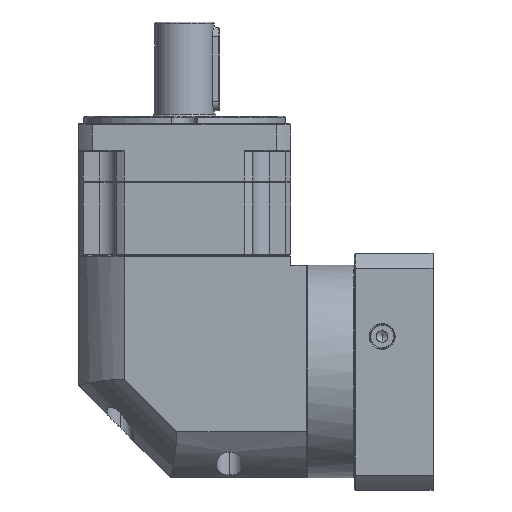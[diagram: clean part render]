
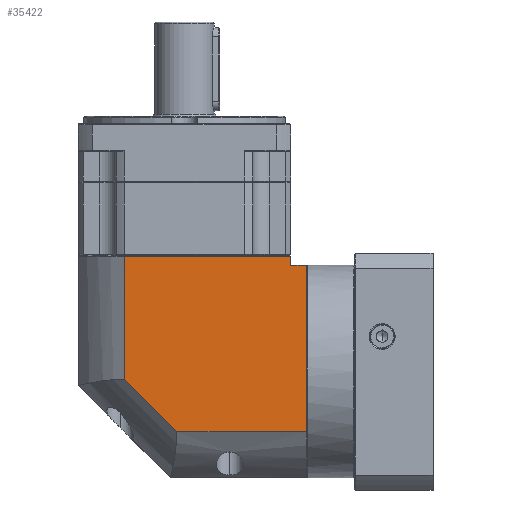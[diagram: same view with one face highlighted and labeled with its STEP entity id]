
A CAD part, left-side view. The second image highlights one B-rep face of the part: STEP entity #35422.
In plain terms, the highlighted planar face has unit normal (-1, 0, 0).
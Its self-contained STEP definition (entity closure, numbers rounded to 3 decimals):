
#1905 = CARTESIAN_POINT ( 'NONE',  ( -270.575, 3.629, 36.413 ) ) ;
#2938 = DIRECTION ( 'NONE',  ( 0., 0., 1. ) ) ;
#3126 = EDGE_CURVE ( 'NONE', #145084, #114725, #108613, .T. ) ;
#4934 = LINE ( 'NONE', #116780, #76496 ) ;
#5906 = EDGE_CURVE ( 'NONE', #21046, #157421, #112117, .T. ) ;
#15353 = DIRECTION ( 'NONE',  ( 0., 1., 0. ) ) ;
#17894 = EDGE_CURVE ( 'NONE', #28507, #57844, #24557, .T. ) ;
#21046 = VERTEX_POINT ( 'NONE', #115982 ) ;
#24557 = LINE ( 'NONE', #135146, #60438 ) ;
#24965 = AXIS2_PLACEMENT_3D ( 'NONE', #1905, #96024, #15353 ) ;
#28507 = VERTEX_POINT ( 'NONE', #138218 ) ;
#30170 = LINE ( 'NONE', #82950, #168899 ) ;
#33591 = CARTESIAN_POINT ( 'NONE',  ( -270.575, -21.471, 29.913 ) ) ;
#35422 = ADVANCED_FACE ( 'NONE', ( #63448 ), #95445, .F. ) ;
#36348 = VECTOR ( 'NONE', #154142, 1000. ) ;
#37057 = VECTOR ( 'NONE', #90538, 1000. ) ;
#41224 = DIRECTION ( 'NONE',  ( 0., 0.707, 0.707 ) ) ;
#43173 = LINE ( 'NONE', #128647, #110430 ) ;
#44926 = VERTEX_POINT ( 'NONE', #57626 ) ;
#46463 = ORIENTED_EDGE ( 'NONE', *, *, #17894, .F. ) ;
#48564 = CARTESIAN_POINT ( 'NONE',  ( -270.575, -111.371, -90.087 ) ) ;
#50927 = ORIENTED_EDGE ( 'NONE', *, *, #158049, .F. ) ;
#57626 = CARTESIAN_POINT ( 'NONE',  ( -270.575, -119.771, -64.986 ) ) ;
#57844 = VERTEX_POINT ( 'NONE', #127356 ) ;
#60249 = CARTESIAN_POINT ( 'NONE',  ( -270.575, -111.371, 24.913 ) ) ;
#60438 = VECTOR ( 'NONE', #41224, 1000. ) ;
#60784 = VECTOR ( 'NONE', #114986, 1000. ) ;
#63448 = FACE_OUTER_BOUND ( 'NONE', #153705, .T. ) ;
#63626 = ORIENTED_EDGE ( 'NONE', *, *, #150271, .F. ) ;
#76496 = VECTOR ( 'NONE', #129698, 1000. ) ;
#77495 = CARTESIAN_POINT ( 'NONE',  ( -270.575, -111.371, 29.913 ) ) ;
#79978 = ORIENTED_EDGE ( 'NONE', *, *, #5906, .T. ) ;
#82950 = CARTESIAN_POINT ( 'NONE',  ( -270.575, -21.471, 36.413 ) ) ;
#85838 = ORIENTED_EDGE ( 'NONE', *, *, #116595, .T. ) ;
#90538 = DIRECTION ( 'NONE',  ( 0., -1., 0. ) ) ;
#95445 = PLANE ( 'NONE',  #24965 ) ;
#96024 = DIRECTION ( 'NONE',  ( 1., 0., 0. ) ) ;
#108613 = LINE ( 'NONE', #170889, #37057 ) ;
#110430 = VECTOR ( 'NONE', #142113, 1000. ) ;
#112117 = LINE ( 'NONE', #60249, #36348 ) ;
#114725 = VERTEX_POINT ( 'NONE', #77495 ) ;
#114986 = DIRECTION ( 'NONE',  ( 0., 0., 1. ) ) ;
#115982 = CARTESIAN_POINT ( 'NONE',  ( -270.575, -119.771, 24.913 ) ) ;
#116595 = EDGE_CURVE ( 'NONE', #157421, #114725, #163698, .T. ) ;
#116780 = CARTESIAN_POINT ( 'NONE',  ( -270.575, -119.771, 36.413 ) ) ;
#127356 = CARTESIAN_POINT ( 'NONE',  ( -270.575, -21.471, -36.648 ) ) ;
#128647 = CARTESIAN_POINT ( 'NONE',  ( -270.575, 3.629, -64.986 ) ) ;
#129489 = ORIENTED_EDGE ( 'NONE', *, *, #3126, .F. ) ;
#129698 = DIRECTION ( 'NONE',  ( 0., 0., -1. ) ) ;
#135146 = CARTESIAN_POINT ( 'NONE',  ( -270.575, -49.81, -64.986 ) ) ;
#138166 = ORIENTED_EDGE ( 'NONE', *, *, #152350, .F. ) ;
#138218 = CARTESIAN_POINT ( 'NONE',  ( -270.575, -49.81, -64.986 ) ) ;
#142113 = DIRECTION ( 'NONE',  ( 0., 1., 0. ) ) ;
#145084 = VERTEX_POINT ( 'NONE', #33591 ) ;
#150271 = EDGE_CURVE ( 'NONE', #44926, #28507, #43173, .T. ) ;
#152350 = EDGE_CURVE ( 'NONE', #57844, #145084, #30170, .T. ) ;
#153705 = EDGE_LOOP ( 'NONE', ( #138166, #46463, #63626, #50927, #79978, #85838, #129489 ) ) ;
#154142 = DIRECTION ( 'NONE',  ( 0., 1., 0. ) ) ;
#157421 = VERTEX_POINT ( 'NONE', #164844 ) ;
#158049 = EDGE_CURVE ( 'NONE', #21046, #44926, #4934, .T. ) ;
#163698 = LINE ( 'NONE', #48564, #60784 ) ;
#164844 = CARTESIAN_POINT ( 'NONE',  ( -270.575, -111.371, 24.913 ) ) ;
#168899 = VECTOR ( 'NONE', #2938, 1000. ) ;
#170889 = CARTESIAN_POINT ( 'NONE',  ( -270.575, 3.629, 29.913 ) ) ;
